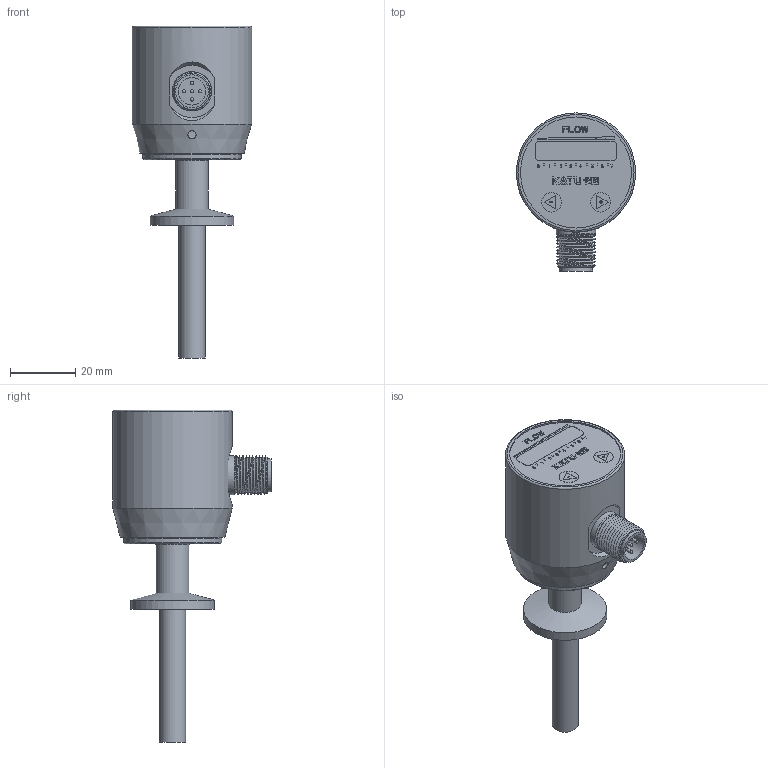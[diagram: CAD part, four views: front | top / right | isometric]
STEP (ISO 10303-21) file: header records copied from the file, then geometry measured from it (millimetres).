
FILE_DESCRIPTION( (''), '2;1');
FILE_NAME( 'QSKD_H25_L40_tri-clamp.step', '2024-04-08T08:24:42+08:00', (''), (''), '', '', '');
FILE_SCHEMA (('AUTOMOTIVE_DESIGN { 1 0 10303 214 3 1 1 1 }'));
Length unit declared in the file: millimetre
Products named in the file (1): QSKD H25_L40_tri-clamp
Bounding box: 36.5 x 48.4 x 101.6 mm (x, y, z)
Volume: 50737.7 mm3; surface area: 14920.9 mm2
Topology: 4 solids, 4 shells, 665 faces, 1773 edges, 1176 vertices
Faces by surface type: plane 575, cylinder 54, sphere 11, cone 10, bspline 10, torus 5
Full cylindrical faces by diameter (mm): 1 x10, 2.5 x1, 6 x2, 6.8 x1, 8 x1, 8.4 x1, 9.7 x1, 9.8 x1, 10 x1, 10.1 x1, 11 x1, 11.6 x2, 12 x1, 23 x3, 25.5 x1, 26.1 x4, 30 x1, 34 x1, 36.5 x1
Entity records: 21321 total; most frequent: CARTESIAN_POINT 5211, ORIENTED_EDGE 3322, DIRECTION 3048, EDGE_CURVE 1661, LINE 1512, VECTOR 1512, VERTEX_POINT 1134, EDGE_LOOP 795
